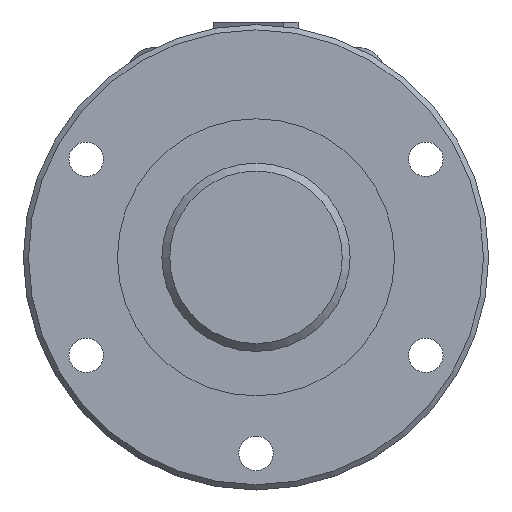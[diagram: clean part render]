
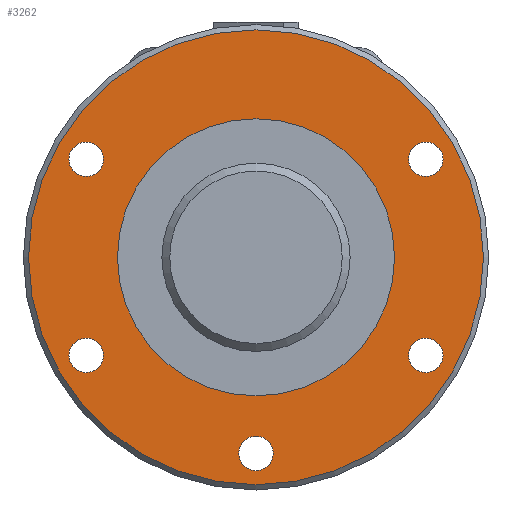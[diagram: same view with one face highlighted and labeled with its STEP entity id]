
A CAD part, left-side view. The second image highlights one B-rep face of the part: STEP entity #3262.
In plain terms, the highlighted planar face has unit normal (-1, 0, 0).
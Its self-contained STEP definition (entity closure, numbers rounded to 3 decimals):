
#1191=ORIENTED_EDGE('',*,*,#1995,.T.);
#1192=ORIENTED_EDGE('',*,*,#1996,.T.);
#1193=ORIENTED_EDGE('',*,*,#1997,.T.);
#1194=ORIENTED_EDGE('',*,*,#1998,.T.);
#1195=ORIENTED_EDGE('',*,*,#1999,.T.);
#1196=ORIENTED_EDGE('',*,*,#2000,.T.);
#1197=ORIENTED_EDGE('',*,*,#2001,.F.);
#1995=EDGE_CURVE('',#2386,#2386,#2512,.T.);
#1996=EDGE_CURVE('',#2387,#2387,#2513,.T.);
#1997=EDGE_CURVE('',#2388,#2388,#2514,.T.);
#1998=EDGE_CURVE('',#2389,#2389,#2515,.T.);
#1999=EDGE_CURVE('',#2390,#2390,#2516,.T.);
#2000=EDGE_CURVE('',#2391,#2391,#2517,.T.);
#2001=EDGE_CURVE('',#2392,#2392,#2518,.T.);
#2386=VERTEX_POINT('',#5255);
#2387=VERTEX_POINT('',#5257);
#2388=VERTEX_POINT('',#5259);
#2389=VERTEX_POINT('',#5261);
#2390=VERTEX_POINT('',#5263);
#2391=VERTEX_POINT('',#5265);
#2392=VERTEX_POINT('',#5267);
#2512=CIRCLE('',#3500,26.5);
#2513=CIRCLE('',#3501,3.3);
#2514=CIRCLE('',#3502,3.3);
#2515=CIRCLE('',#3503,3.3);
#2516=CIRCLE('',#3504,3.3);
#2517=CIRCLE('',#3505,3.3);
#2518=CIRCLE('',#3506,43.5);
#2655=EDGE_LOOP('',(#1191));
#2656=EDGE_LOOP('',(#1192));
#2657=EDGE_LOOP('',(#1193));
#2658=EDGE_LOOP('',(#1194));
#2659=EDGE_LOOP('',(#1195));
#2660=EDGE_LOOP('',(#1196));
#2661=EDGE_LOOP('',(#1197));
#2899=FACE_BOUND('',#2655,.T.);
#2900=FACE_BOUND('',#2656,.T.);
#2901=FACE_BOUND('',#2657,.T.);
#2902=FACE_BOUND('',#2658,.T.);
#2903=FACE_BOUND('',#2659,.T.);
#2904=FACE_BOUND('',#2660,.T.);
#2905=FACE_BOUND('',#2661,.T.);
#3119=PLANE('',#3499);
#3262=ADVANCED_FACE('',(#2899,#2900,#2901,#2902,#2903,#2904,#2905),#3119,
 .T.);
#3499=AXIS2_PLACEMENT_3D('',#5253,#4111,#4112);
#3500=AXIS2_PLACEMENT_3D('',#5254,#4113,#4114);
#3501=AXIS2_PLACEMENT_3D('',#5256,#4115,#4116);
#3502=AXIS2_PLACEMENT_3D('',#5258,#4117,#4118);
#3503=AXIS2_PLACEMENT_3D('',#5260,#4119,#4120);
#3504=AXIS2_PLACEMENT_3D('',#5262,#4121,#4122);
#3505=AXIS2_PLACEMENT_3D('',#5264,#4123,#4124);
#3506=AXIS2_PLACEMENT_3D('',#5266,#4125,#4126);
#4111=DIRECTION('',(-1.,0.,0.));
#4112=DIRECTION('',(0.,0.,1.));
#4113=DIRECTION('',(1.,0.,0.));
#4114=DIRECTION('',(0.,0.,-1.));
#4115=DIRECTION('',(1.,0.,0.));
#4116=DIRECTION('',(0.,0.,-1.));
#4117=DIRECTION('',(1.,0.,0.));
#4118=DIRECTION('',(0.,0.,-1.));
#4119=DIRECTION('',(1.,0.,0.));
#4120=DIRECTION('',(0.,0.,-1.));
#4121=DIRECTION('',(1.,0.,0.));
#4122=DIRECTION('',(0.,0.,-1.));
#4123=DIRECTION('',(1.,0.,0.));
#4124=DIRECTION('',(0.,0.,-1.));
#4125=DIRECTION('',(1.,0.,0.));
#4126=DIRECTION('',(0.,0.,-1.));
#5253=CARTESIAN_POINT('',(0.,43.5,0.));
#5254=CARTESIAN_POINT('',(0.,0.,0.));
#5255=CARTESIAN_POINT('',(0.,0.,-26.5));
#5256=CARTESIAN_POINT('',(0.,-37.5,0.));
#5257=CARTESIAN_POINT('',(0.,-37.5,-3.3));
#5258=CARTESIAN_POINT('',(0.,-18.75,32.476));
#5259=CARTESIAN_POINT('',(0.,-18.75,29.176));
#5260=CARTESIAN_POINT('',(0.,18.75,-32.476));
#5261=CARTESIAN_POINT('',(0.,18.75,-35.776));
#5262=CARTESIAN_POINT('',(0.,-18.75,-32.476));
#5263=CARTESIAN_POINT('',(0.,-18.75,-35.776));
#5264=CARTESIAN_POINT('',(0.,18.75,32.476));
#5265=CARTESIAN_POINT('',(0.,18.75,29.176));
#5266=CARTESIAN_POINT('',(0.,0.,0.));
#5267=CARTESIAN_POINT('',(0.,0.,-43.5));
